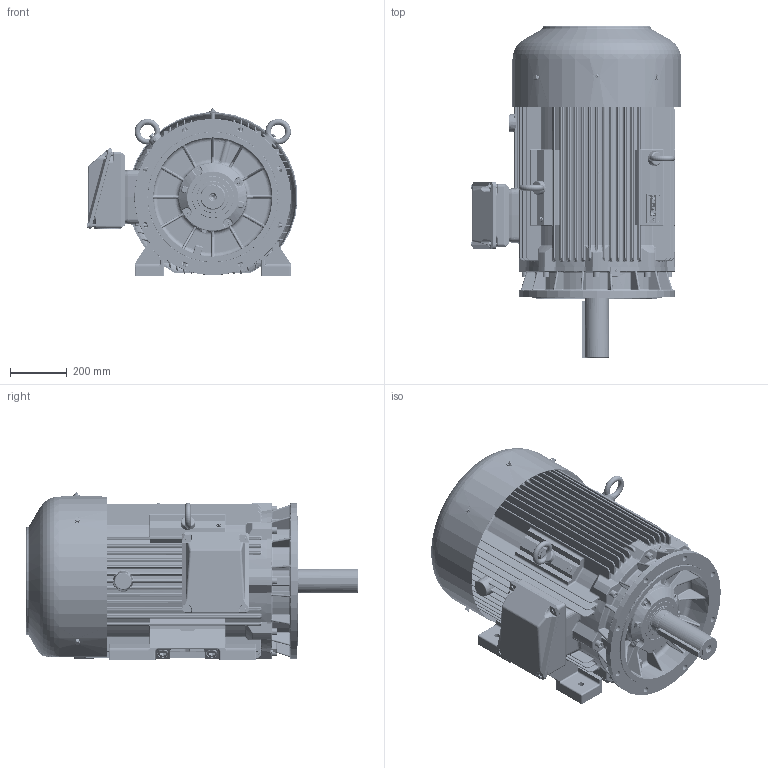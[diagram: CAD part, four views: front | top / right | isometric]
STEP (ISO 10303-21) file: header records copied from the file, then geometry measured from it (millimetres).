
FILE_DESCRIPTION(/* description */ ('Unknown','CAx-IF Rec.Pracs.---Representation and Presentation of Product Manufacturing Information (PMI)---4.0---2014-10-13','CAx-IF Rec.Pracs.---3D Tessellated Geometry---0.4---2014-09-14','2;1'),/* implementation_level */ '2;1');
FILE_NAME(/* name */ 'Silnik_SIE440_TDL4_6',/* time_stamp */ '2024-07-08T09:37:20+02:00',/* author */ ('Unknown'),/* organization */ ('Unknown'),/* preprocessor_version */ 'ST-DEVELOPER v16.7',/* originating_system */ 'DEX',/* authorisation */ $);
FILE_SCHEMA (('AP242_MANAGED_MODEL_BASED_3D_ENGINEERING_MIM_LF { 1 0 10303 442 20130219 1 4 }'));
Products named in the file (1): Silnik_SIE440_TDL4_6
Bounding box: 742.2 x 1167.95 x 594.47 mm (x, y, z)
Volume: 120182484.2 mm3; surface area: 10522857 mm2
Topology: 1 solids, 58 shells, 13585 faces, 34860 edges, 21250 vertices
Faces by surface type: plane 6256, cylinder 3345, bspline 1998, torus 1117, cone 505, sphere 364
Full cylindrical faces by diameter (mm): 1.6 x2, 2.459 x2, 2.5 x4, 3 x13, 3.4 x4, 3.5 x4, 4.917 x2, 5 x7, 6 x2, 6.2 x14, 6.35 x3, 6.4 x2, 6.466 x8, 6.647 x16, 8 x25, 8.36 x2, 8.376 x9, 8.8 x1, 8.917 x4, 9 x16, 9.853 x1, 10 x17, 10.106 x8, 10.5 x5, 11.63 x4, 12 x12, 13 x8, 13.546 x8, 13.835 x9, 14 x7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
Entity records: 574573 total; most frequent: CARTESIAN_POINT 164822, ORIENTED_EDGE 66576, DIRECTION 61210, EDGE_CURVE 33288, AXIS2_PLACEMENT_3D 21382, VERTEX_POINT 20790, LINE 18446, VECTOR 18446
